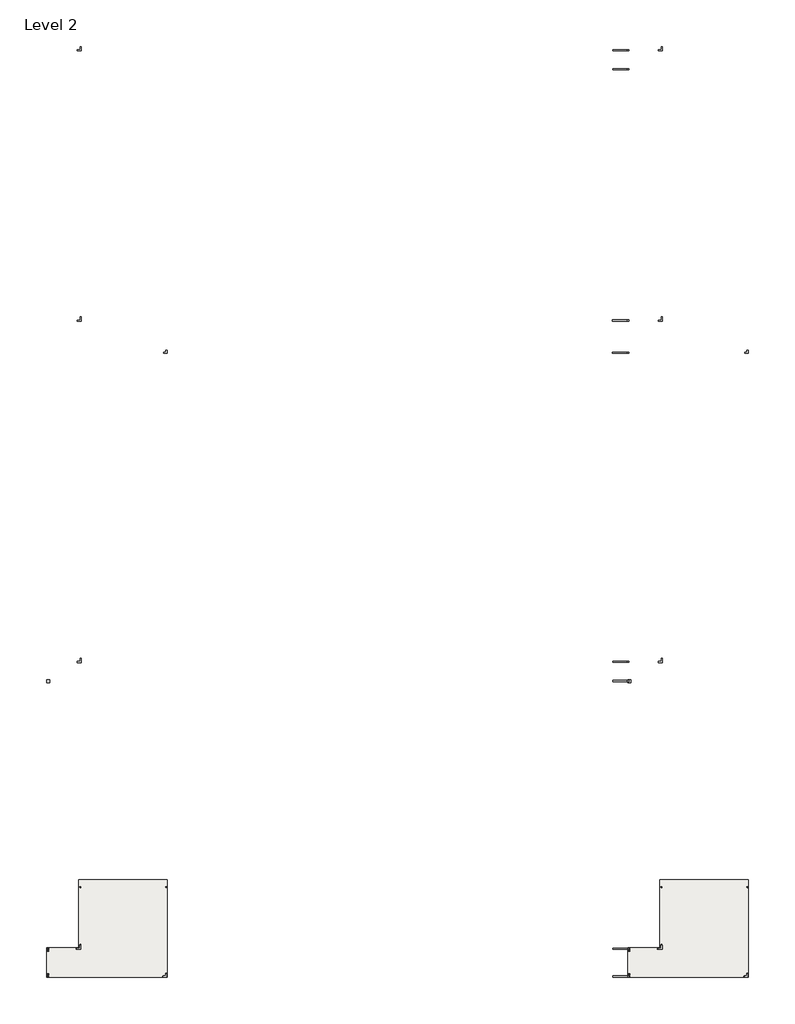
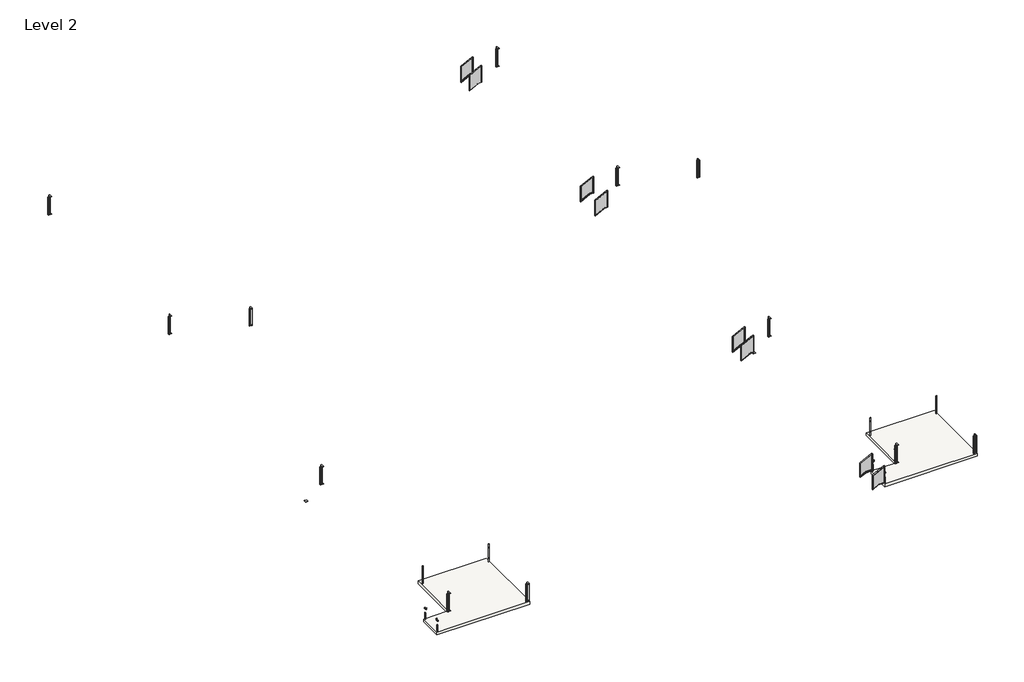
# One storey: 22 proxies, 20 railings, 2 slabs.
"""IFC4 building model written with IfcOpenShell, lengths in millimetres."""

from ifc_helpers import new_model, si_unit, frame, origin, place, context, project, spatial, polyline, outline, extrude, transform, mapped, element, save
from components import baluster_end_post_viva_frame_top_mount_a3f933ec, baluster_end_post_viva_frame_top_mount_welded_steel_channel_f5500c4d, baluster_end_post_viva_frame_top_mount_welded_steel_channel_345f36c4, baluster_end_post_viva_frame_top_mount_welded_steel_channel_d86172e0, baluster_end_post_viva_frame_top_mount_stairs_welded_steel_a77319bc, baluster_corner_panel_viva_frame_inside_standard_3efb34d5, baluster_corner_panel_viva_frame_outside_standard_ad65f39b, baluster_landing_panel_viva_frame_lower_standard_pp01_fe5527e2, baluster_landing_panel_viva_frame_lower_standard_pp01_77fad078, baluster_landing_panel_viva_frame_lower_standard_pp01_66edf5f7, baluster_landing_panel_viva_frame_lower_standard_pp01_411d569d, baluster_landing_panel_viva_frame_lower_standard_pp01_3f3e0b9b, baluster_landing_panel_viva_frame_lower_standard_pp01_cf8df011

model = new_model("IFC4")

# Units and contexts
model_context = context("Model", 3, world=origin())
ifc_project = project(units=[si_unit("LENGTHUNIT", "METRE", prefix="MILLI")], contexts=[model_context])

# Site, building, storey
site = spatial("IfcSite", under=ifc_project)
building = spatial("IfcBuilding", under=site)
storey = spatial("IfcBuildingStorey", under=building, Name="Level 2", Elevation=3048.0)

# Proxies
placement = place(None, origin())
baluster_end_post_viva_frame_top_mount_shape = baluster_end_post_viva_frame_top_mount_a3f933ec(model_context)
element("IfcBuildingElementProxy", 1, Name="Baluster-End-Post-VIVA-FRAME-Top Mount : ANCHORED TO CONCRETE_TOP MOUNT FOLD_STRAIGHT", ObjectType="Baluster-End-Post-VIVA-FRAME-Top Mount : ANCHORED TO CONCRETE_TOP MOUNT FOLD_STRAIGHT", at=placement, inside=storey, context=model_context, shape_type="MappedRepresentation", body=[
    mapped(baluster_end_post_viva_frame_top_mount_shape, transform((-7413.6813244, -18323.6294547, 3047.492), x_axis=(1.0, 0.0, 0.0), y_axis=(0.0, 1.0, 0.0), z_axis=(0.0, 0.0, 1.0))),
])
element("IfcBuildingElementProxy", 2, Name="Baluster-End-Post-VIVA-FRAME-Top Mount : ANCHORED TO CONCRETE_TOP MOUNT FOLD_STRAIGHT", ObjectType="Baluster-End-Post-VIVA-FRAME-Top Mount : ANCHORED TO CONCRETE_TOP MOUNT FOLD_STRAIGHT", at=placement, inside=storey, context=model_context, shape_type="MappedRepresentation", body=[
    mapped(baluster_end_post_viva_frame_top_mount_shape, transform((-33016.8813244, -18323.6294547, 3047.492), x_axis=(1.0, 0.0, 0.0), y_axis=(0.0, 1.0, 0.0), z_axis=(0.0, 0.0, 1.0))),
])
baluster_end_post_viva_frame_top_mount_welded_steel_channel_shape = baluster_end_post_viva_frame_top_mount_welded_steel_channel_f5500c4d(model_context)
element("IfcBuildingElementProxy", 3, Name="Baluster-End-Post-VIVA-FRAME-Top Mount : WELDED STEEL CHANNEL_TOP MOUNT FOLD_STRAIGHT", ObjectType="Baluster-End-Post-VIVA-FRAME-Top Mount : WELDED STEEL CHANNEL_TOP MOUNT FOLD_STRAIGHT", at=placement, inside=storey, context=model_context, shape_type="MappedRepresentation", body=[
    mapped(baluster_end_post_viva_frame_top_mount_welded_steel_channel_shape, transform((-7423.2063244, -31331.5771681, 3047.492), x_axis=(1.0, 0.0, 0.0), y_axis=(0.0, 1.0, 0.0), z_axis=(0.0, 0.0, 1.0))),
])
element("IfcBuildingElementProxy", 4, Name="Baluster-End-Post-VIVA-FRAME-Top Mount : WELDED STEEL CHANNEL_TOP MOUNT FOLD_STRAIGHT", ObjectType="Baluster-End-Post-VIVA-FRAME-Top Mount : WELDED STEEL CHANNEL_TOP MOUNT FOLD_STRAIGHT", at=placement, inside=storey, context=model_context, shape_type="MappedRepresentation", body=[
    mapped(baluster_end_post_viva_frame_top_mount_welded_steel_channel_shape, transform((-5892.5438448, -30035.206939, 3047.492), x_axis=(0.0, -1.0, 0.0), y_axis=(1.0, 0.0, 0.0), z_axis=(0.0, 0.0, 1.0))),
])
element("IfcBuildingElementProxy", 5, Name="Baluster-End-Post-VIVA-FRAME-Top Mount : WELDED STEEL CHANNEL_TOP MOUNT FOLD_STRAIGHT", ObjectType="Baluster-End-Post-VIVA-FRAME-Top Mount : WELDED STEEL CHANNEL_TOP MOUNT FOLD_STRAIGHT", at=placement, inside=storey, context=model_context, shape_type="MappedRepresentation", body=[
    mapped(baluster_end_post_viva_frame_top_mount_welded_steel_channel_shape, transform((-2309.2266913, -31301.8140064, 3047.492), x_axis=(0.0, 1.0, 0.0), y_axis=(-1.0, 0.0, 0.0), z_axis=(0.0, 0.0, 1.0))),
])
element("IfcBuildingElementProxy", 6, Name="Baluster-End-Post-VIVA-FRAME-Top Mount : WELDED STEEL CHANNEL_TOP MOUNT FOLD_STRAIGHT", ObjectType="Baluster-End-Post-VIVA-FRAME-Top Mount : WELDED STEEL CHANNEL_TOP MOUNT FOLD_STRAIGHT", at=placement, inside=storey, context=model_context, shape_type="MappedRepresentation", body=[
    mapped(baluster_end_post_viva_frame_top_mount_welded_steel_channel_shape, transform((-7423.2063244, -30312.779539, 3047.492), x_axis=(-1.0, 0.0, 0.0), y_axis=(0.0, -1.0, 0.0), z_axis=(0.0, 0.0, 1.0))),
])
element("IfcBuildingElementProxy", 7, Name="Baluster-End-Post-VIVA-FRAME-Top Mount : WELDED STEEL CHANNEL_TOP MOUNT FOLD_STRAIGHT", ObjectType="Baluster-End-Post-VIVA-FRAME-Top Mount : WELDED STEEL CHANNEL_TOP MOUNT FOLD_STRAIGHT", at=placement, inside=storey, context=model_context, shape_type="MappedRepresentation", body=[
    mapped(baluster_end_post_viva_frame_top_mount_welded_steel_channel_shape, transform((-33026.4063244, -31331.5771681, 3047.492), x_axis=(1.0, 0.0, 0.0), y_axis=(0.0, 1.0, 0.0), z_axis=(0.0, 0.0, 1.0))),
])
element("IfcBuildingElementProxy", 8, Name="Baluster-End-Post-VIVA-FRAME-Top Mount : WELDED STEEL CHANNEL_TOP MOUNT FOLD_STRAIGHT", ObjectType="Baluster-End-Post-VIVA-FRAME-Top Mount : WELDED STEEL CHANNEL_TOP MOUNT FOLD_STRAIGHT", at=placement, inside=storey, context=model_context, shape_type="MappedRepresentation", body=[
    mapped(baluster_end_post_viva_frame_top_mount_welded_steel_channel_shape, transform((-31495.7438448, -30035.206939, 3047.492), x_axis=(0.0, -1.0, 0.0), y_axis=(1.0, 0.0, 0.0), z_axis=(0.0, 0.0, 1.0))),
])
element("IfcBuildingElementProxy", 9, Name="Baluster-End-Post-VIVA-FRAME-Top Mount : WELDED STEEL CHANNEL_TOP MOUNT FOLD_STRAIGHT", ObjectType="Baluster-End-Post-VIVA-FRAME-Top Mount : WELDED STEEL CHANNEL_TOP MOUNT FOLD_STRAIGHT", at=placement, inside=storey, context=model_context, shape_type="MappedRepresentation", body=[
    mapped(baluster_end_post_viva_frame_top_mount_welded_steel_channel_shape, transform((-27912.4266913, -31301.8140064, 3047.492), x_axis=(0.0, 1.0, 0.0), y_axis=(-1.0, 0.0, 0.0), z_axis=(0.0, 0.0, 1.0))),
])
element("IfcBuildingElementProxy", 10, Name="Baluster-End-Post-VIVA-FRAME-Top Mount : WELDED STEEL CHANNEL_TOP MOUNT FOLD_STRAIGHT", ObjectType="Baluster-End-Post-VIVA-FRAME-Top Mount : WELDED STEEL CHANNEL_TOP MOUNT FOLD_STRAIGHT", at=placement, inside=storey, context=model_context, shape_type="MappedRepresentation", body=[
    mapped(baluster_end_post_viva_frame_top_mount_welded_steel_channel_shape, transform((-33026.4063244, -30312.779539, 3047.492), x_axis=(-1.0, 0.0, 0.0), y_axis=(0.0, -1.0, 0.0), z_axis=(0.0, 0.0, 1.0))),
])
baluster_end_post_viva_frame_top_mount_welded_steel_channel_2_shape = baluster_end_post_viva_frame_top_mount_welded_steel_channel_345f36c4(model_context)
element("IfcBuildingElementProxy", 11, Name="Baluster-End-Post-VIVA-FRAME-Top Mount : WELDED STEEL CHANNEL_TOP MOUNT FOLD_STRAIGHT", ObjectType="Baluster-End-Post-VIVA-FRAME-Top Mount : WELDED STEEL CHANNEL_TOP MOUNT FOLD_STRAIGHT", at=placement, inside=storey, context=model_context, shape_type="MappedRepresentation", body=[
    mapped(baluster_end_post_viva_frame_top_mount_welded_steel_channel_2_shape, transform((-2343.2063244, -31331.5771681, 3047.492), x_axis=(1.0, 0.0, 0.0), y_axis=(0.0, 1.0, 0.0), z_axis=(0.0, 0.0, 1.0))),
])
element("IfcBuildingElementProxy", 12, Name="Baluster-End-Post-VIVA-FRAME-Top Mount : WELDED STEEL CHANNEL_TOP MOUNT FOLD_STRAIGHT", ObjectType="Baluster-End-Post-VIVA-FRAME-Top Mount : WELDED STEEL CHANNEL_TOP MOUNT FOLD_STRAIGHT", at=placement, inside=storey, context=model_context, shape_type="MappedRepresentation", body=[
    mapped(baluster_end_post_viva_frame_top_mount_welded_steel_channel_2_shape, transform((-27946.4063244, -31331.5771681, 3047.492), x_axis=(1.0, 0.0, 0.0), y_axis=(0.0, 1.0, 0.0), z_axis=(0.0, 0.0, 1.0))),
])
baluster_end_post_viva_frame_top_mount_welded_steel_channel_3_shape = baluster_end_post_viva_frame_top_mount_welded_steel_channel_d86172e0(model_context)
element("IfcBuildingElementProxy", 13, Name="Baluster-End-Post-VIVA-FRAME-Top Mount : WELDED STEEL CHANNEL_TOP MOUNT FOLD_STRAIGHT", ObjectType="Baluster-End-Post-VIVA-FRAME-Top Mount : WELDED STEEL CHANNEL_TOP MOUNT FOLD_STRAIGHT", at=placement, inside=storey, context=model_context, shape_type="MappedRepresentation", body=[
    mapped(baluster_end_post_viva_frame_top_mount_welded_steel_channel_3_shape, transform((-5892.5438448, -27495.206939, 3047.492), x_axis=(0.0, -1.0, 0.0), y_axis=(1.0, 0.0, 0.0), z_axis=(0.0, 0.0, 1.0))),
])
element("IfcBuildingElementProxy", 14, Name="Baluster-End-Post-VIVA-FRAME-Top Mount : WELDED STEEL CHANNEL_TOP MOUNT FOLD_STRAIGHT", ObjectType="Baluster-End-Post-VIVA-FRAME-Top Mount : WELDED STEEL CHANNEL_TOP MOUNT FOLD_STRAIGHT", at=placement, inside=storey, context=model_context, shape_type="MappedRepresentation", body=[
    mapped(baluster_end_post_viva_frame_top_mount_welded_steel_channel_3_shape, transform((-6153.2063244, -30312.779539, 3047.492), x_axis=(-1.0, 0.0, 0.0), y_axis=(0.0, -1.0, 0.0), z_axis=(0.0, 0.0, 1.0))),
])
element("IfcBuildingElementProxy", 15, Name="Baluster-End-Post-VIVA-FRAME-Top Mount : WELDED STEEL CHANNEL_TOP MOUNT FOLD_STRAIGHT", ObjectType="Baluster-End-Post-VIVA-FRAME-Top Mount : WELDED STEEL CHANNEL_TOP MOUNT FOLD_STRAIGHT", at=placement, inside=storey, context=model_context, shape_type="MappedRepresentation", body=[
    mapped(baluster_end_post_viva_frame_top_mount_welded_steel_channel_3_shape, transform((-31495.7438448, -27495.206939, 3047.492), x_axis=(0.0, -1.0, 0.0), y_axis=(1.0, 0.0, 0.0), z_axis=(0.0, 0.0, 1.0))),
])
element("IfcBuildingElementProxy", 16, Name="Baluster-End-Post-VIVA-FRAME-Top Mount : WELDED STEEL CHANNEL_TOP MOUNT FOLD_STRAIGHT", ObjectType="Baluster-End-Post-VIVA-FRAME-Top Mount : WELDED STEEL CHANNEL_TOP MOUNT FOLD_STRAIGHT", at=placement, inside=storey, context=model_context, shape_type="MappedRepresentation", body=[
    mapped(baluster_end_post_viva_frame_top_mount_welded_steel_channel_3_shape, transform((-31756.4063244, -30312.779539, 3047.492), x_axis=(-1.0, 0.0, 0.0), y_axis=(0.0, -1.0, 0.0), z_axis=(0.0, 0.0, 1.0))),
])
element("IfcBuildingElementProxy", 17, Name="Baluster-End-Post-VIVA-FRAME-Top Mount : WELDED STEEL CHANNEL_TOP MOUNT FOLD_STRAIGHT", ObjectType="Baluster-End-Post-VIVA-FRAME-Top Mount : WELDED STEEL CHANNEL_TOP MOUNT FOLD_STRAIGHT", at=placement, inside=storey, context=model_context, shape_type="MappedRepresentation", body=[
    mapped(baluster_end_post_viva_frame_top_mount_welded_steel_channel_2_shape, transform((-2309.2266913, -27491.8140064, 3047.492), x_axis=(0.0, 1.0, 0.0), y_axis=(-1.0, 0.0, 0.0), z_axis=(0.0, 0.0, 1.0))),
])
element("IfcBuildingElementProxy", 18, Name="Baluster-End-Post-VIVA-FRAME-Top Mount : WELDED STEEL CHANNEL_TOP MOUNT FOLD_STRAIGHT", ObjectType="Baluster-End-Post-VIVA-FRAME-Top Mount : WELDED STEEL CHANNEL_TOP MOUNT FOLD_STRAIGHT", at=placement, inside=storey, context=model_context, shape_type="MappedRepresentation", body=[
    mapped(baluster_end_post_viva_frame_top_mount_welded_steel_channel_2_shape, transform((-27912.4266913, -27491.8140064, 3047.492), x_axis=(0.0, 1.0, 0.0), y_axis=(-1.0, 0.0, 0.0), z_axis=(0.0, 0.0, 1.0))),
])
baluster_end_post_viva_frame_top_mount_stairs_welded_steel_shape = baluster_end_post_viva_frame_top_mount_stairs_welded_steel_a77319bc(model_context)
element("IfcBuildingElementProxy", 19, Name="Baluster-End-Post-VIVA-FRAME-Top Mount Stairs : WELDED STEEL CHANNEL_TOP MOUNT FRAME_STAIR", ObjectType="Baluster-End-Post-VIVA-FRAME-Top Mount Stairs : WELDED STEEL CHANNEL_TOP MOUNT FRAME_STAIR", at=placement, inside=storey, context=model_context, shape_type="MappedRepresentation", body=[
    mapped(baluster_end_post_viva_frame_top_mount_stairs_welded_steel_shape, transform((-33016.8813244, -31330.7375116, 3784.092), x_axis=(1.0, 0.0, 0.0), y_axis=(0.0, 1.0, 0.0), z_axis=(0.0, 0.0, 1.0))),
])
element("IfcBuildingElementProxy", 20, Name="Baluster-End-Post-VIVA-FRAME-Top Mount Stairs : WELDED STEEL CHANNEL_TOP MOUNT FRAME_STAIR", ObjectType="Baluster-End-Post-VIVA-FRAME-Top Mount Stairs : WELDED STEEL CHANNEL_TOP MOUNT FRAME_STAIR", at=placement, inside=storey, context=model_context, shape_type="MappedRepresentation", body=[
    mapped(baluster_end_post_viva_frame_top_mount_stairs_welded_steel_shape, transform((-33016.8813244, -30313.6175116, 3784.092), x_axis=(-1.0, 0.0, 0.0), y_axis=(0.0, -1.0, 0.0), z_axis=(0.0, 0.0, 1.0))),
])
element("IfcBuildingElementProxy", 21, Name="Baluster-End-Post-VIVA-FRAME-Top Mount Stairs : WELDED STEEL CHANNEL_TOP MOUNT FRAME_STAIR", ObjectType="Baluster-End-Post-VIVA-FRAME-Top Mount Stairs : WELDED STEEL CHANNEL_TOP MOUNT FRAME_STAIR", at=placement, inside=storey, context=model_context, shape_type="MappedRepresentation", body=[
    mapped(baluster_end_post_viva_frame_top_mount_stairs_welded_steel_shape, transform((-7421.9837023, -31330.7375116, 3784.092), x_axis=(1.0, 0.0, 0.0), y_axis=(0.0, 1.0, 0.0), z_axis=(0.0, 0.0, 1.0))),
])
element("IfcBuildingElementProxy", 22, Name="Baluster-End-Post-VIVA-FRAME-Top Mount Stairs : WELDED STEEL CHANNEL_TOP MOUNT FRAME_STAIR", ObjectType="Baluster-End-Post-VIVA-FRAME-Top Mount Stairs : WELDED STEEL CHANNEL_TOP MOUNT FRAME_STAIR", at=placement, inside=storey, context=model_context, shape_type="MappedRepresentation", body=[
    mapped(baluster_end_post_viva_frame_top_mount_stairs_welded_steel_shape, transform((-7421.9837023, -30309.7492776, 3784.092), x_axis=(-1.0, 0.0, 0.0), y_axis=(0.0, -1.0, 0.0), z_axis=(0.0, 0.0, 1.0))),
])

# Railings
baluster_corner_panel_viva_frame_inside_standard_shape = baluster_corner_panel_viva_frame_inside_standard_3efb34d5(model_context)
element("IfcRailing", 23, ObjectType="Baluster-Corner-Panel-VIVA-FRAME : Inside_Standard", at=placement, inside=storey, context=model_context, shape_type="MappedRepresentation", body=[
    mapped(baluster_corner_panel_viva_frame_inside_standard_shape, transform((-2189.4162913, -31454.3875681, 3022.346), x_axis=(0.0, 1.0, 0.0), y_axis=(-1.0, 0.0, 0.0), z_axis=(0.0, 0.0, 1.0))),
])
element("IfcRailing", 24, ObjectType="Baluster-Corner-Panel-VIVA-FRAME : Inside_Standard", at=placement, inside=storey, context=model_context, shape_type="MappedRepresentation", body=[
    mapped(baluster_corner_panel_viva_frame_inside_standard_shape, transform((-27792.6162913, -31454.3875681, 3022.346), x_axis=(0.0, 1.0, 0.0), y_axis=(-1.0, 0.0, 0.0), z_axis=(0.0, 0.0, 1.0))),
])
element("IfcRailing", 25, ObjectType="Baluster-Corner-Panel-VIVA-FRAME : Inside_Standard", at=placement, inside=storey, context=model_context, shape_type="MappedRepresentation", body=[
    mapped(baluster_corner_panel_viva_frame_inside_standard_shape, transform((-2175.6412339, -3995.4622112, 3022.346), x_axis=(0.0, 1.0, 0.0), y_axis=(-1.0, 0.0, 0.0), z_axis=(0.0, 0.0, 1.0))),
])
element("IfcRailing", 26, ObjectType="Baluster-Corner-Panel-VIVA-FRAME : Inside_Standard", at=placement, inside=storey, context=model_context, shape_type="MappedRepresentation", body=[
    mapped(baluster_corner_panel_viva_frame_inside_standard_shape, transform((-27778.8412339, -3995.4622112, 3022.346), x_axis=(0.0, 1.0, 0.0), y_axis=(-1.0, 0.0, 0.0), z_axis=(0.0, 0.0, 1.0))),
])
baluster_corner_panel_viva_frame_outside_standard_shape = baluster_corner_panel_viva_frame_outside_standard_ad65f39b(model_context)
element("IfcRailing", 27, ObjectType="Baluster-Corner-Panel-VIVA-FRAME : Outside_Standard", at=placement, inside=storey, context=model_context, shape_type="MappedRepresentation", body=[
    mapped(baluster_corner_panel_viva_frame_outside_standard_shape, transform((-5964.5542448, -30228.069139, 3022.346), x_axis=(0.0, -1.0, 0.0), y_axis=(1.0, 0.0, 0.0), z_axis=(0.0, 0.0, 1.0))),
])
element("IfcRailing", 28, ObjectType="Baluster-Corner-Panel-VIVA-FRAME : Outside_Standard", at=placement, inside=storey, context=model_context, shape_type="MappedRepresentation", body=[
    mapped(baluster_corner_panel_viva_frame_outside_standard_shape, transform((-5950.0063244, -17600.0564664, 3022.346), x_axis=(0.0, -1.0, 0.0), y_axis=(1.0, 0.0, 0.0), z_axis=(0.0, 0.0, 1.0))),
])
element("IfcRailing", 29, ObjectType="Baluster-Corner-Panel-VIVA-FRAME : Outside_Standard", at=placement, inside=storey, context=model_context, shape_type="MappedRepresentation", body=[
    mapped(baluster_corner_panel_viva_frame_outside_standard_shape, transform((-5949.3364401, -2571.4148112, 3022.346), x_axis=(0.0, -1.0, 0.0), y_axis=(1.0, 0.0, 0.0), z_axis=(0.0, 0.0, 1.0))),
])
element("IfcRailing", 30, ObjectType="Baluster-Corner-Panel-VIVA-FRAME : Outside_Standard", at=placement, inside=storey, context=model_context, shape_type="MappedRepresentation", body=[
    mapped(baluster_corner_panel_viva_frame_outside_standard_shape, transform((-5954.5858694, 9328.5041722, 3022.346), x_axis=(0.0, -1.0, 0.0), y_axis=(1.0, 0.0, 0.0), z_axis=(0.0, 0.0, 1.0))),
])
element("IfcRailing", 31, ObjectType="Baluster-Corner-Panel-VIVA-FRAME : Outside_Standard", at=placement, inside=storey, context=model_context, shape_type="MappedRepresentation", body=[
    mapped(baluster_corner_panel_viva_frame_outside_standard_shape, transform((-31567.7542448, -30228.069139, 3022.346), x_axis=(0.0, -1.0, 0.0), y_axis=(1.0, 0.0, 0.0), z_axis=(0.0, 0.0, 1.0))),
])
element("IfcRailing", 32, ObjectType="Baluster-Corner-Panel-VIVA-FRAME : Outside_Standard", at=placement, inside=storey, context=model_context, shape_type="MappedRepresentation", body=[
    mapped(baluster_corner_panel_viva_frame_outside_standard_shape, transform((-31553.2063244, -17600.0564664, 3022.346), x_axis=(0.0, -1.0, 0.0), y_axis=(1.0, 0.0, 0.0), z_axis=(0.0, 0.0, 1.0))),
])
element("IfcRailing", 33, ObjectType="Baluster-Corner-Panel-VIVA-FRAME : Outside_Standard", at=placement, inside=storey, context=model_context, shape_type="MappedRepresentation", body=[
    mapped(baluster_corner_panel_viva_frame_outside_standard_shape, transform((-31557.7858694, 9328.5041722, 3022.346), x_axis=(0.0, -1.0, 0.0), y_axis=(1.0, 0.0, 0.0), z_axis=(0.0, 0.0, 1.0))),
])
element("IfcRailing", 34, ObjectType="Baluster-Corner-Panel-VIVA-FRAME : Outside_Standard", at=placement, inside=storey, context=model_context, shape_type="MappedRepresentation", body=[
    mapped(baluster_corner_panel_viva_frame_outside_standard_shape, transform((-31552.5364401, -2571.4148112, 3022.346), x_axis=(0.0, -1.0, 0.0), y_axis=(1.0, 0.0, 0.0), z_axis=(0.0, 0.0, 1.0))),
])
baluster_landing_panel_viva_frame_lower_standard_pp01_shape = baluster_landing_panel_viva_frame_lower_standard_pp01_fe5527e2(model_context)
element("IfcRailing", 35, ObjectType="Baluster-Landing-Panel-VIVA-FRAME-Lower : Standard_PP01", at=placement, inside=storey, context=model_context, shape_type="MappedRepresentation", body=[
    mapped(baluster_landing_panel_viva_frame_lower_standard_pp01_shape, transform((-8138.2046311, 8466.3657244, 3186.0942145), x_axis=(0.0, 1.0, 0.0), y_axis=(-1.0, 0.0, 0.0), z_axis=(0.0, 0.0, 1.0))),
])
element("IfcRailing", 36, ObjectType="Baluster-Landing-Panel-VIVA-FRAME-Lower : Standard_PP01", at=placement, inside=storey, context=model_context, shape_type="MappedRepresentation", body=[
    mapped(baluster_landing_panel_viva_frame_lower_standard_pp01_shape, transform((-8138.2435302, -18462.299545, 3186.0942145), x_axis=(0.0, 1.0, 0.0), y_axis=(-1.0, 0.0, 0.0), z_axis=(0.0, 0.0, 1.0))),
])
baluster_landing_panel_viva_frame_lower_standard_pp01_2_shape = baluster_landing_panel_viva_frame_lower_standard_pp01_77fad078(model_context)
element("IfcRailing", 37, ObjectType="Baluster-Landing-Panel-VIVA-FRAME-Lower : Standard_PP01", at=placement, inside=storey, context=model_context, shape_type="MappedRepresentation", body=[
    mapped(baluster_landing_panel_viva_frame_lower_standard_pp01_2_shape, transform((-8146.3100393, -31469.9649858, 3186.0942145), x_axis=(0.0, 1.0, 0.0), y_axis=(-1.0, 0.0, 0.0), z_axis=(0.0, 0.0, 1.0))),
])
baluster_landing_panel_viva_frame_lower_standard_pp01_3_shape = baluster_landing_panel_viva_frame_lower_standard_pp01_66edf5f7(model_context)
element("IfcRailing", 38, ObjectType="Baluster-Landing-Panel-VIVA-FRAME-Lower : Standard_PP01", at=placement, inside=storey, context=model_context, shape_type="MappedRepresentation", body=[
    mapped(baluster_landing_panel_viva_frame_lower_standard_pp01_3_shape, transform((-8138.2046311, 9386.1815212, 3186.0942145), x_axis=(0.0, -1.0, 0.0), y_axis=(1.0, 0.0, 0.0), z_axis=(0.0, 0.0, 1.0))),
])
element("IfcRailing", 39, ObjectType="Baluster-Landing-Panel-VIVA-FRAME-Lower : Standard_PP01", at=placement, inside=storey, context=model_context, shape_type="MappedRepresentation", body=[
    mapped(baluster_landing_panel_viva_frame_lower_standard_pp01_3_shape, transform((-8138.2435302, -17542.4137324, 3186.0942145), x_axis=(0.0, -1.0, 0.0), y_axis=(1.0, 0.0, 0.0), z_axis=(0.0, 0.0, 1.0))),
])
baluster_landing_panel_viva_frame_lower_standard_pp01_4_shape = baluster_landing_panel_viva_frame_lower_standard_pp01_411d569d(model_context)
element("IfcRailing", 40, ObjectType="Baluster-Landing-Panel-VIVA-FRAME-Lower : Standard_PP01", at=placement, inside=storey, context=model_context, shape_type="MappedRepresentation", body=[
    mapped(baluster_landing_panel_viva_frame_lower_standard_pp01_4_shape, transform((-8146.3100393, -30170.5218034, 3186.0942145), x_axis=(0.0, -1.0, 0.0), y_axis=(1.0, 0.0, 0.0), z_axis=(0.0, 0.0, 1.0))),
])
baluster_landing_panel_viva_frame_lower_standard_pp01_5_shape = baluster_landing_panel_viva_frame_lower_standard_pp01_3f3e0b9b(model_context)
element("IfcRailing", 41, ObjectType="Baluster-Landing-Panel-VIVA-FRAME-Lower : Standard_PP01", at=placement, inside=storey, context=model_context, shape_type="MappedRepresentation", body=[
    mapped(baluster_landing_panel_viva_frame_lower_standard_pp01_5_shape, transform((-8152.1769267, -2513.2829651, 3186.0942145), x_axis=(0.0, -1.0, 0.0), y_axis=(1.0, 0.0, 0.0), z_axis=(0.0, 0.0, 1.0))),
])
baluster_landing_panel_viva_frame_lower_standard_pp01_6_shape = baluster_landing_panel_viva_frame_lower_standard_pp01_cf8df011(model_context)
element("IfcRailing", 42, ObjectType="Baluster-Landing-Panel-VIVA-FRAME-Lower : Standard_PP01", at=placement, inside=storey, context=model_context, shape_type="MappedRepresentation", body=[
    mapped(baluster_landing_panel_viva_frame_lower_standard_pp01_6_shape, transform((-8150.2666753, -4011.4540233, 3186.0942145), x_axis=(0.0, 1.0, 0.0), y_axis=(-1.0, 0.0, 0.0), z_axis=(0.0, 0.0, 1.0))),
])

# Slabs
element("IfcSlab", 43, ObjectType="Generic - 6.5\"", at=placement, inside=storey, context=model_context, shape_type="SweptSolid", body=[
    extrude(outline(polyline([(-2161.6073393, -31473.9861116), (-7473.6813244, -31473.9861116), (-7473.6813244, -30171.3775116), (-6055.4273393, -30171.3775116), (-6055.4273393, -27180.3775116), (-2161.6073393, -27180.3775116), (-2161.6073393, -31473.9861116)])), frame((0.0, 0.0, 2880.5378), z_axis=(0.0, 0.0, 1.0), x_axis=(1.0, 0.0, 0.0)), (0.0, 0.0, 1.0), 167.4622),
])
element("IfcSlab", 44, ObjectType="Generic - 6.5\"", at=placement, inside=storey, context=model_context, shape_type="SweptSolid", body=[
    extrude(outline(polyline([(-27764.8073393, -31473.9861116), (-33076.8813244, -31473.9861116), (-33076.8813244, -30171.3775116), (-31658.6273393, -30171.3775116), (-31658.6273393, -27180.3775116), (-27764.8073393, -27180.3775116), (-27764.8073393, -31473.9861116)])), frame((0.0, 0.0, 2880.5378), z_axis=(0.0, 0.0, 1.0), x_axis=(1.0, 0.0, 0.0)), (0.0, 0.0, 1.0), 167.4622),
])

save(model, "model.ifc")
